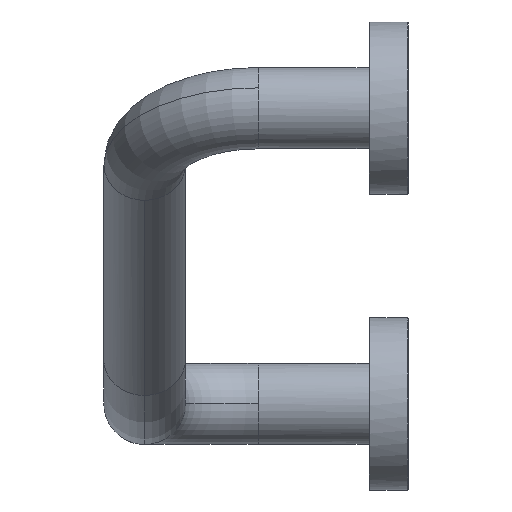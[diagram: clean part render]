
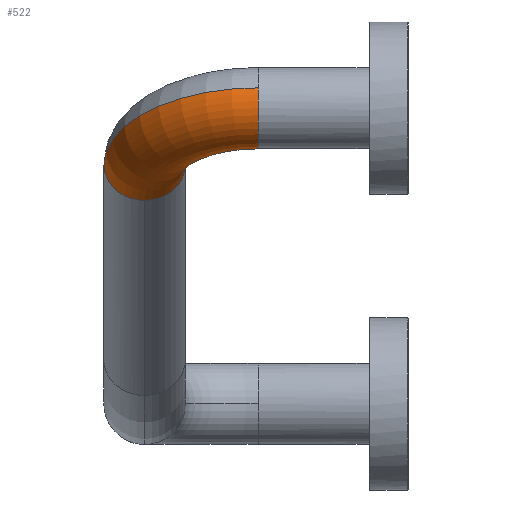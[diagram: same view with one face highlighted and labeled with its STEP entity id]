
A CAD part, left-side view. The second image highlights one B-rep face of the part: STEP entity #522.
In plain terms, the highlighted toroidal (fillet/blend) face has major radius 35 mm and minor radius 12.5 mm.
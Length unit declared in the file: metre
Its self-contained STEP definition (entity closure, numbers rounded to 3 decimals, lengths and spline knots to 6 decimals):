
#490=EDGE_CURVE('',#491,#493,#495,.T.);
#491=VERTEX_POINT('',#492);
#492=CARTESIAN_POINT('',(-0.195059,0.037,0.097147));
#493=VERTEX_POINT('',#494);
#494=CARTESIAN_POINT('',(-0.184234,0.037,0.078397));
#495=CIRCLE('',#496,0.0125);
#496=AXIS2_PLACEMENT_3D('',#497,#498,#499);
#497=CARTESIAN_POINT('',(-0.184234,0.037,0.090897));
#498=DIRECTION('',(0.,-1.0,0.));
#499=DIRECTION('',(-0.866,0.0,0.5));
#522=ADVANCED_FACE('',(#528),#523,.T.);
#523=TOROIDAL_SURFACE('',#524,0.035,0.0125);
#524=AXIS2_PLACEMENT_3D('',#525,#526,#527);
#525=CARTESIAN_POINT('',(-0.153923,0.037,0.073397));
#526=DIRECTION('',(0.5,0.,0.866));
#527=DIRECTION('',(0.866,0.0,-0.5));
#528=FACE_OUTER_BOUND('',#529,.T.);
#529=EDGE_LOOP('',(#530,#541,#550,#552,#553,#562));
#530=ORIENTED_EDGE('',*,*,#531,.T.);
#531=EDGE_CURVE('',#532,#534,#536,.T.);
#532=VERTEX_POINT('',#533);
#533=CARTESIAN_POINT('',(-0.160173,0.072,0.062572));
#534=VERTEX_POINT('',#535);
#535=CARTESIAN_POINT('',(-0.153923,0.0595,0.073397));
#536=CIRCLE('',#537,0.0125);
#537=AXIS2_PLACEMENT_3D('',#538,#539,#540);
#538=CARTESIAN_POINT('',(-0.153923,0.072,0.073397));
#539=DIRECTION('',(-0.866,0.0,0.5));
#540=DIRECTION('',(0.,1.0,0.0));
#541=ORIENTED_EDGE('',*,*,#542,.T.);
#542=EDGE_CURVE('',#534,#543,#545,.T.);
#543=VERTEX_POINT('',#544);
#544=CARTESIAN_POINT('',(-0.173409,0.037,0.084647));
#545=CIRCLE('',#546,0.0225);
#546=AXIS2_PLACEMENT_3D('',#547,#548,#549);
#547=CARTESIAN_POINT('',(-0.153923,0.037,0.073397));
#548=DIRECTION('',(0.5,0.,0.866));
#549=DIRECTION('',(0.866,0.0,-0.5));
#550=ORIENTED_EDGE('',*,*,#551,.F.);
#551=EDGE_CURVE('',#493,#543,#495,.T.);
#552=ORIENTED_EDGE('',*,*,#490,.F.);
#553=ORIENTED_EDGE('',*,*,#554,.F.);
#554=EDGE_CURVE('',#555,#491,#557,.T.);
#555=VERTEX_POINT('',#556);
#556=CARTESIAN_POINT('',(-0.153923,0.0845,0.073397));
#557=CIRCLE('',#558,0.0475);
#558=AXIS2_PLACEMENT_3D('',#559,#560,#561);
#559=CARTESIAN_POINT('',(-0.153923,0.037,0.073397));
#560=DIRECTION('',(0.5,0.,0.866));
#561=DIRECTION('',(0.866,0.0,-0.5));
#562=ORIENTED_EDGE('',*,*,#563,.T.);
#563=EDGE_CURVE('',#555,#532,#536,.T.);
